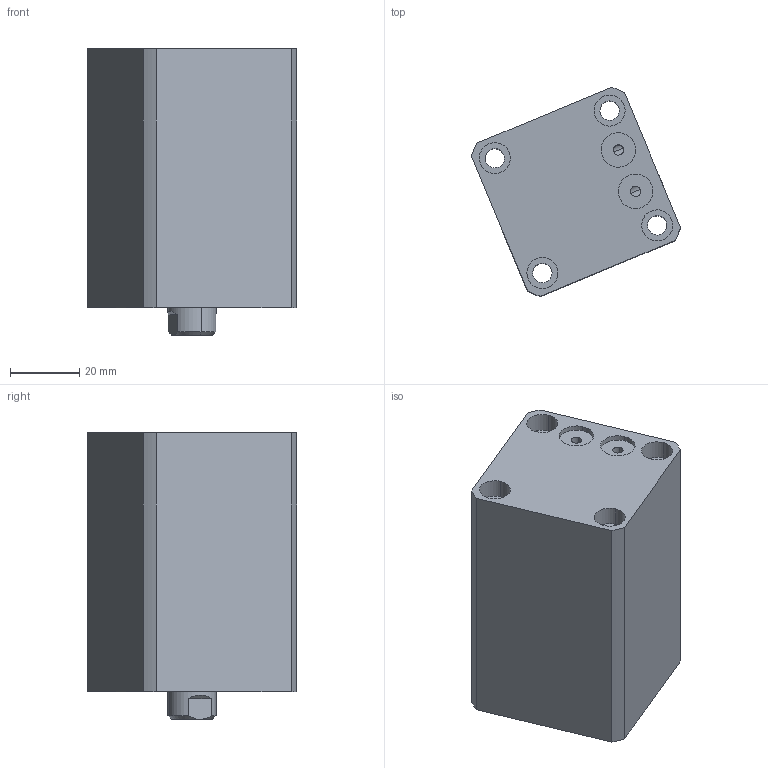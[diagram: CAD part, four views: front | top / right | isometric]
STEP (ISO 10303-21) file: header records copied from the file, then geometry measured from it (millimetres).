
FILE_DESCRIPTION (( 'STEP AP214' ), '1' );
FILE_NAME ('chtb-sdmb25x30n_asm.STEP', '2018-05-24T01:24:17', ( 'Windows' ), ( 'Microsoft' ), 'SwSTEP 2.0', 'SolidWorks 2015', '' );
FILE_SCHEMA (( 'AUTOMOTIVE_DESIGN' ));
Length unit declared in the file: millimetre
Products named in the file (4): CHTB-SDMB25X30NBT; CHTB-25QG; chtb-sdmb25x30n_asm; CHTB-SDMB25X30NHSG
Assembly tree (3 placements, depth 2):
  chtb-sdmb25x30n_asm
    CHTB-25QG
    CHTB-SDMB25X30NBT
    CHTB-SDMB25X30NHSG
Bounding box: 60.55 x 60.55 x 83 mm (x, y, z)
Volume: 150180.1 mm3; surface area: 41439.1 mm2
Topology: 3 solids, 3 shells, 142 faces, 379 edges, 257 vertices
Faces by surface type: cylinder 89, plane 34, bspline 10, cone 9
Entity records: 8024 total; most frequent: CARTESIAN_POINT 4397, ORIENTED_EDGE 746, DIRECTION 661, EDGE_CURVE 373, AXIS2_PLACEMENT_3D 272, VERTEX_POINT 257, EDGE_LOOP 180, FACE_OUTER_BOUND 142
